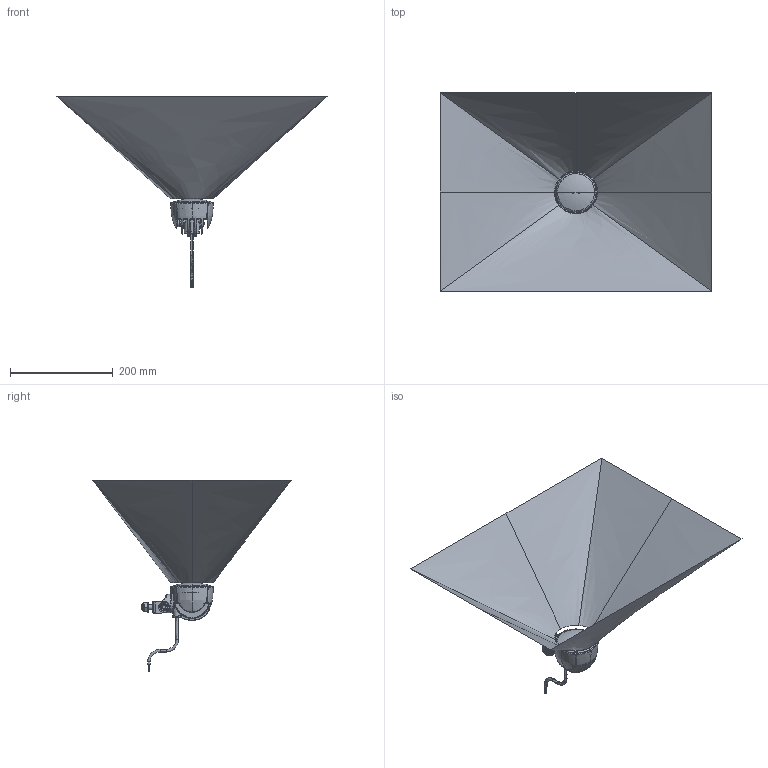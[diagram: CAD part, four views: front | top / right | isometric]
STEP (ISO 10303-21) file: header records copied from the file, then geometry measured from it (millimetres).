
FILE_DESCRIPTION(('CATIA V5 STEP Exchange','CAx-IF Rec.Pracs.--- Model Styling and Organization---1.5--- 2016-08-15','CAx-IF Rec.Pracs.---Supplemental Geometry---1.0---2011-11-01','CAx-IF Rec.Pracs.--- Composite Materials ---1.1---2010-07-15'),'2;1');
FILE_NAME('E:\tmp\ddx\2011206\HELLA_3D_data_Module_70_LED_Gen-3-2_compact_reverse_lamp_2ZR-996-576.stp','2022-01-18T07:34:52+00:00',('none'),('none'),'CATIA Version 5-6 Release 2020 SP3 HF9','CATIA V5 STEP AP214 Edition 3 v2','none');
FILE_SCHEMA(('AUTOMOTIVE_DESIGN { 1 0 10303 214 3 1 1 1 }'));
Products named in the file (1): 10002734277_D10_001
Bounding box: 528.25 x 385.42 x 373.6 mm (x, y, z)
Volume: 247007.5 mm3; surface area: 371869.1 mm2
Topology: 4 solids, 18 shells, 1456 faces, 3829 edges, 2403 vertices
Faces by surface type: plane 459, bspline 450, cylinder 335, cone 157, torus 41, sphere 10, extrusion 4
Entity records: 75037 total; most frequent: CARTESIAN_POINT 47245, ORIENTED_EDGE 7588, EDGE_CURVE 3801, DIRECTION 2595, B_SPLINE_CURVE_WITH_KNOTS 2525, VERTEX_POINT 2403, EDGE_LOOP 1512, ADVANCED_FACE 1456
